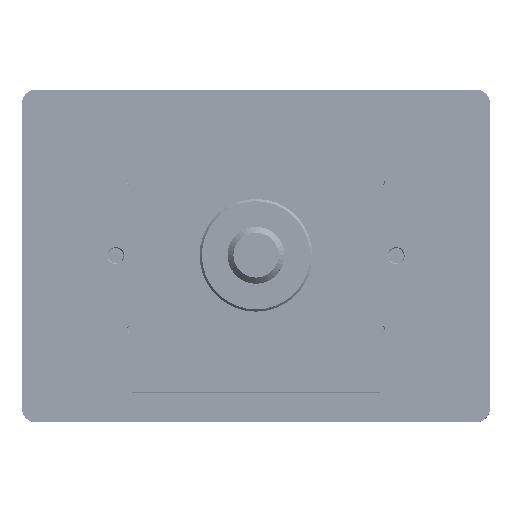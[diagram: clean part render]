
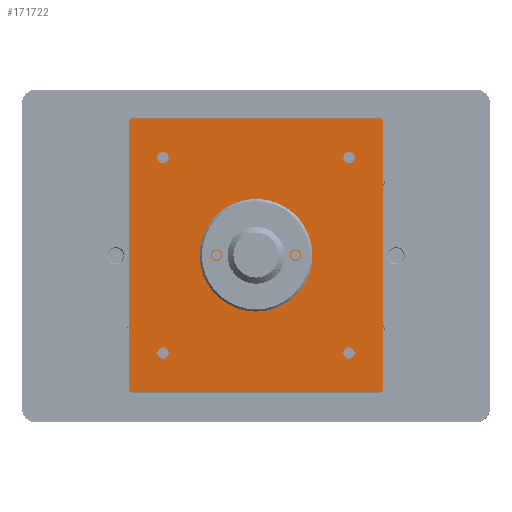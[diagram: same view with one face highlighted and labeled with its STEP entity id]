
A CAD part, top view. The second image highlights one B-rep face of the part: STEP entity #171722.
In plain terms, the highlighted planar face has unit normal (0, 0, 1).
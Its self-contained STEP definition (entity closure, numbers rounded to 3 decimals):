
#27225=LINE('',#382985,#41126);
#27231=LINE('',#382999,#41132);
#27233=LINE('',#383003,#41134);
#27239=LINE('',#383017,#41140);
#41126=VECTOR('',#294517,1000.);
#41132=VECTOR('',#294525,1000.);
#41134=VECTOR('',#294529,1000.);
#41140=VECTOR('',#294537,1000.);
#90364=ORIENTED_EDGE('',*,*,#115395,.T.);
#90365=ORIENTED_EDGE('',*,*,#115396,.F.);
#90366=ORIENTED_EDGE('',*,*,#115397,.F.);
#90367=ORIENTED_EDGE('',*,*,#115398,.F.);
#90368=ORIENTED_EDGE('',*,*,#115399,.F.);
#90369=ORIENTED_EDGE('',*,*,#115400,.F.);
#90370=ORIENTED_EDGE('',*,*,#115401,.F.);
#90371=ORIENTED_EDGE('',*,*,#115393,.T.);
#90372=ORIENTED_EDGE('',*,*,#115402,.T.);
#90373=ORIENTED_EDGE('',*,*,#115379,.T.);
#90374=ORIENTED_EDGE('',*,*,#115403,.T.);
#90375=ORIENTED_EDGE('',*,*,#115385,.T.);
#90376=ORIENTED_EDGE('',*,*,#115404,.T.);
#90377=ORIENTED_EDGE('',*,*,#115387,.T.);
#90378=ORIENTED_EDGE('',*,*,#115405,.T.);
#115379=EDGE_CURVE('',#130978,#130979,#27225,.T.);
#115385=EDGE_CURVE('',#130985,#130984,#27231,.T.);
#115387=EDGE_CURVE('',#130986,#130987,#27233,.T.);
#115393=EDGE_CURVE('',#130993,#130992,#27239,.T.);
#115395=EDGE_CURVE('',#130994,#130994,#133752,.T.);
#115396=EDGE_CURVE('',#130995,#130995,#133753,.T.);
#115397=EDGE_CURVE('',#130996,#130996,#133754,.T.);
#115398=EDGE_CURVE('',#130997,#130997,#133755,.T.);
#115399=EDGE_CURVE('',#130998,#130998,#133756,.T.);
#115400=EDGE_CURVE('',#130999,#130999,#133757,.T.);
#115401=EDGE_CURVE('',#131000,#131000,#133758,.T.);
#115402=EDGE_CURVE('',#130992,#130978,#133759,.T.);
#115403=EDGE_CURVE('',#130979,#130985,#133760,.T.);
#115404=EDGE_CURVE('',#130984,#130986,#133761,.T.);
#115405=EDGE_CURVE('',#130987,#130993,#133762,.T.);
#130978=VERTEX_POINT('',#382986);
#130979=VERTEX_POINT('',#382987);
#130984=VERTEX_POINT('',#382998);
#130985=VERTEX_POINT('',#383000);
#130986=VERTEX_POINT('',#383004);
#130987=VERTEX_POINT('',#383005);
#130992=VERTEX_POINT('',#383016);
#130993=VERTEX_POINT('',#383018);
#130994=VERTEX_POINT('',#383022);
#130995=VERTEX_POINT('',#383024);
#130996=VERTEX_POINT('',#383026);
#130997=VERTEX_POINT('',#383028);
#130998=VERTEX_POINT('',#383030);
#130999=VERTEX_POINT('',#383032);
#131000=VERTEX_POINT('',#383034);
#133752=CIRCLE('',#254300,5.5);
#133753=CIRCLE('',#254301,1.621);
#133754=CIRCLE('',#254302,1.621);
#133755=CIRCLE('',#254303,2.);
#133756=CIRCLE('',#254304,2.);
#133757=CIRCLE('',#254305,2.);
#133758=CIRCLE('',#254306,2.);
#133759=CIRCLE('',#254307,1.);
#133760=CIRCLE('',#254308,1.);
#133761=CIRCLE('',#254309,1.);
#133762=CIRCLE('',#254310,1.);
#144773=EDGE_LOOP('',(#90364));
#144774=EDGE_LOOP('',(#90365));
#144775=EDGE_LOOP('',(#90366));
#144776=EDGE_LOOP('',(#90367));
#144777=EDGE_LOOP('',(#90368));
#144778=EDGE_LOOP('',(#90369));
#144779=EDGE_LOOP('',(#90370));
#144780=EDGE_LOOP('',(#90371,#90372,#90373,#90374,#90375,#90376,#90377,
#90378));
#155973=FACE_BOUND('',#144773,.T.);
#155974=FACE_BOUND('',#144774,.T.);
#155975=FACE_BOUND('',#144775,.T.);
#155976=FACE_BOUND('',#144776,.T.);
#155977=FACE_BOUND('',#144777,.T.);
#155978=FACE_BOUND('',#144778,.T.);
#155979=FACE_BOUND('',#144779,.T.);
#155980=FACE_BOUND('',#144780,.T.);
#161677=PLANE('',#254299);
#171722=ADVANCED_FACE('',(#155973,#155974,#155975,#155976,#155977,#155978,
#155979,#155980),#161677,.T.);
#254299=AXIS2_PLACEMENT_3D('',#383020,#294539,#294540);
#254300=AXIS2_PLACEMENT_3D('',#383021,#294541,#294542);
#254301=AXIS2_PLACEMENT_3D('',#383023,#294543,#294544);
#254302=AXIS2_PLACEMENT_3D('',#383025,#294545,#294546);
#254303=AXIS2_PLACEMENT_3D('',#383027,#294547,#294548);
#254304=AXIS2_PLACEMENT_3D('',#383029,#294549,#294550);
#254305=AXIS2_PLACEMENT_3D('',#383031,#294551,#294552);
#254306=AXIS2_PLACEMENT_3D('',#383033,#294553,#294554);
#254307=AXIS2_PLACEMENT_3D('',#383035,#294555,#294556);
#254308=AXIS2_PLACEMENT_3D('',#383036,#294557,#294558);
#254309=AXIS2_PLACEMENT_3D('',#383037,#294559,#294560);
#254310=AXIS2_PLACEMENT_3D('',#383038,#294561,#294562);
#294517=DIRECTION('',(0.,-1.,0.));
#294525=DIRECTION('',(1.,0.,0.));
#294529=DIRECTION('',(0.,1.,0.));
#294537=DIRECTION('',(-1.,0.,0.));
#294539=DIRECTION('',(0.,0.,1.));
#294540=DIRECTION('',(1.,0.,0.));
#294541=DIRECTION('',(0.,0.,-1.));
#294542=DIRECTION('',(-1.,0.,0.));
#294543=DIRECTION('',(0.,0.,1.));
#294544=DIRECTION('',(-1.,0.,0.));
#294545=DIRECTION('',(0.,0.,1.));
#294546=DIRECTION('',(-1.,0.,0.));
#294547=DIRECTION('',(0.,0.,1.));
#294548=DIRECTION('',(1.,0.,0.));
#294549=DIRECTION('',(0.,0.,1.));
#294550=DIRECTION('',(1.,0.,0.));
#294551=DIRECTION('',(0.,0.,1.));
#294552=DIRECTION('',(1.,0.,0.));
#294553=DIRECTION('',(0.,0.,1.));
#294554=DIRECTION('',(1.,0.,0.));
#294555=DIRECTION('',(0.,0.,1.));
#294556=DIRECTION('',(1.,0.,0.));
#294557=DIRECTION('',(0.,0.,1.));
#294558=DIRECTION('',(1.,0.,0.));
#294559=DIRECTION('',(0.,0.,1.));
#294560=DIRECTION('',(1.,0.,0.));
#294561=DIRECTION('',(0.,0.,1.));
#294562=DIRECTION('',(1.,0.,0.));
#382985=CARTESIAN_POINT('',(-45.,48.65,16.));
#382986=CARTESIAN_POINT('',(-45.,47.65,16.));
#382987=CARTESIAN_POINT('',(-45.,-47.65,16.));
#382998=CARTESIAN_POINT('',(44.,-48.65,16.));
#382999=CARTESIAN_POINT('',(-45.,-48.65,16.));
#383000=CARTESIAN_POINT('',(-44.,-48.65,16.));
#383003=CARTESIAN_POINT('',(45.,-48.65,16.));
#383004=CARTESIAN_POINT('',(45.,-47.65,16.));
#383005=CARTESIAN_POINT('',(45.,47.65,16.));
#383016=CARTESIAN_POINT('',(-44.,48.65,16.));
#383017=CARTESIAN_POINT('',(45.,48.65,16.));
#383018=CARTESIAN_POINT('',(44.,48.65,16.));
#383020=CARTESIAN_POINT('',(-45.,-48.65,16.));
#383021=CARTESIAN_POINT('',(0.,0.,16.));
#383022=CARTESIAN_POINT('',(-5.5,0.,16.));
#383023=CARTESIAN_POINT('',(14.,0.,16.));
#383024=CARTESIAN_POINT('',(12.379,0.,16.));
#383025=CARTESIAN_POINT('',(-14.,0.,16.));
#383026=CARTESIAN_POINT('',(-15.621,0.,16.));
#383027=CARTESIAN_POINT('',(-33.,-34.65,16.));
#383028=CARTESIAN_POINT('',(-31.,-34.65,16.));
#383029=CARTESIAN_POINT('',(-33.,34.65,16.));
#383030=CARTESIAN_POINT('',(-31.,34.65,16.));
#383031=CARTESIAN_POINT('',(33.,34.65,16.));
#383032=CARTESIAN_POINT('',(35.,34.65,16.));
#383033=CARTESIAN_POINT('',(33.,-34.65,16.));
#383034=CARTESIAN_POINT('',(35.,-34.65,16.));
#383035=CARTESIAN_POINT('',(-44.,47.65,16.));
#383036=CARTESIAN_POINT('',(-44.,-47.65,16.));
#383037=CARTESIAN_POINT('',(44.,-47.65,16.));
#383038=CARTESIAN_POINT('',(44.,47.65,16.));
